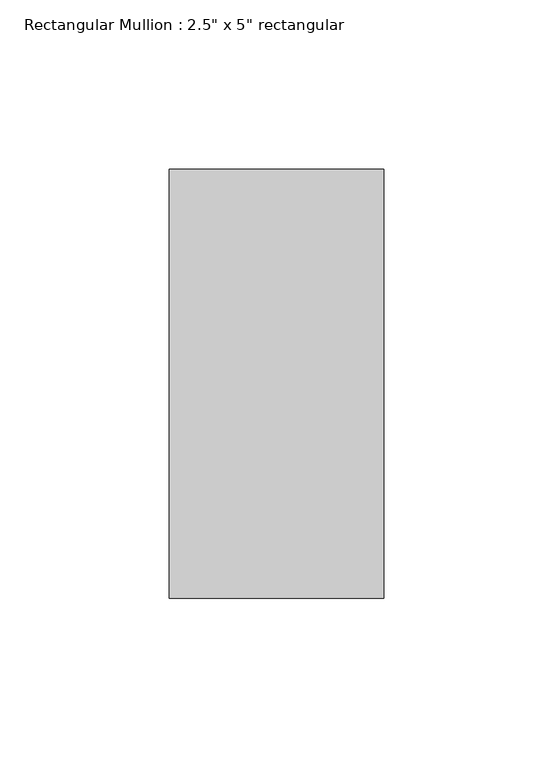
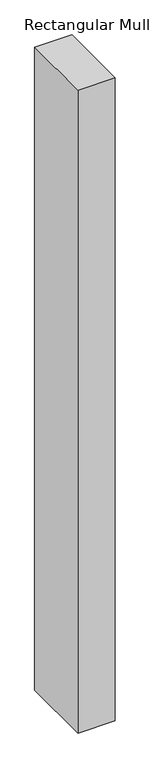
"""IFC4 building model written with IfcOpenShell, lengths in millimetres: member geometry."""

import ifcopenshell
import ifcopenshell.guid

model = None  # the IFC model being written
_history = None  # IfcOwnerHistory: only IFC2X3 demands one
_inside = {}  # id of a spatial element -> (the spatial element, [elements in it])
_under = {}  # id of a project, library or spatial element -> (it, [spatial elements below it])
_declared = {}  # id of a project -> (the project, [libraries it declares])
_typed = {}  # id of a type object -> (the type object, [elements of that type])
_made_of = {}  # id of a material, layer set ... -> (it, [elements and type objects made of it])


def new_model(schema):
    """Start an empty IFC model of exactly this schema.

    Asked for "IFC4X3", IfcOpenShell would pick the latest addendum, in which some entities
    have other attributes; the version numbers below select the first issue.
    IFC2X3 requires an IfcOwnerHistory on every rooted entity: one is made here for all.
    """
    global model, _history
    if schema == "IFC4X3":
        model = ifcopenshell.file(schema_version=(4, 3, 0, 0))
    else:
        model = ifcopenshell.file(schema=schema)
    _inside.clear()
    _under.clear()
    _declared.clear()
    _typed.clear()
    _made_of.clear()
    _history = None
    if model.schema == "IFC2X3":
        org = make("IfcOrganization", Name="unknown")
        user = make(
            "IfcPersonAndOrganization",
            ThePerson=make("IfcPerson", FamilyName="unknown"),
            TheOrganization=org,
        )
        app = make(
            "IfcApplication",
            ApplicationDeveloper=org,
            Version="unknown",
            ApplicationFullName="unknown",
            ApplicationIdentifier="unknown",
        )
        _history = make(
            "IfcOwnerHistory",
            OwningUser=user,
            OwningApplication=app,
            ChangeAction="ADDED",
            CreationDate=0,
        )
    return model


def make(cls, **values):
    """One entity of the class cls with the attributes given. An attribute that is None is left unset."""
    return model.create_entity(
        cls, **{name: value for name, value in values.items() if value is not None}
    )


def rooted(cls, **values):
    """An entity with a GlobalId (a new one), such as an element, a storey or a relation."""
    return make(cls, GlobalId=ifcopenshell.guid.new(), OwnerHistory=_history, **values)


def si_unit(unit_type, name, prefix=None):
    """IfcSIUnit, for example si_unit("LENGTHUNIT", "METRE", prefix="MILLI")."""
    return make("IfcSIUnit", UnitType=unit_type, Prefix=prefix, Name=name)


def assignment(units):
    """IfcUnitAssignment: the units of a project."""
    return None if units is None else make("IfcUnitAssignment", Units=units)


def point(xyz):
    """IfcCartesianPoint."""
    return None if xyz is None else make("IfcCartesianPoint", Coordinates=xyz)


def direction(xyz):
    """IfcDirection."""
    return None if xyz is None else make("IfcDirection", DirectionRatios=xyz)


def frame(location, z_axis=None, x_axis=None):
    """IfcAxis2Placement3D, a coordinate frame: its origin and axes. An axis left out is left unset."""
    return make(
        "IfcAxis2Placement3D",
        Location=point(location),
        Axis=direction(z_axis),
        RefDirection=direction(x_axis),
    )


def origin():
    """The frame at (0, 0, 0) with its axes left unset."""
    return frame((0.0, 0.0, 0.0))


def place(relative_to, where):
    """IfcLocalPlacement: puts the frame where relative to a parent placement (None: the world)."""
    return make(
        "IfcLocalPlacement", PlacementRelTo=relative_to, RelativePlacement=where
    )


def context(
    kind, dimensions, precision=None, world=None, true_north=None, identifier=None
):
    """IfcGeometricRepresentationContext, for example the 3D "Model" context."""
    return make(
        "IfcGeometricRepresentationContext",
        ContextIdentifier=identifier,
        ContextType=kind,
        CoordinateSpaceDimension=dimensions,
        Precision=precision,
        WorldCoordinateSystem=world,
        TrueNorth=true_north,
    )


def project(units=None, contexts=None):
    """IfcProject with its units and contexts."""
    return rooted(
        "IfcProject",
        Name="project",
        RepresentationContexts=contexts,
        UnitsInContext=assignment(units),
    )


def spatial(cls, under=None, at=None, **own):
    """A site, building, storey or space (cls), placed at a placement, below another one or the project."""
    s = rooted(cls, ObjectPlacement=at, **own)
    if under is not None:
        _under.setdefault(under.id(), (under, []))[1].append(s)
    return s


def polyline(points):
    """IfcPolyline through the points."""
    return make("IfcPolyline", Points=[point(p) for p in points])


def outline(outer, holes=None, kind="AREA"):
    """IfcArbitraryClosedProfileDef: a profile drawn as a closed curve; with holes, ...WithVoids."""
    if holes is None:
        return make("IfcArbitraryClosedProfileDef", ProfileType=kind, OuterCurve=outer)
    return make(
        "IfcArbitraryProfileDefWithVoids",
        ProfileType=kind,
        OuterCurve=outer,
        InnerCurves=holes,
    )


def extrude(swept, where, along, depth):
    """IfcExtrudedAreaSolid: the profile swept, set in the frame where, extruded along a direction by depth."""
    return make(
        "IfcExtrudedAreaSolid",
        SweptArea=swept,
        Position=where,
        ExtrudedDirection=direction(along),
        Depth=depth,
    )


def shape(context_of_items, identifier, shape_type, items):
    """IfcShapeRepresentation: the items that make up one representation, for example the "Body"."""
    return make(
        "IfcShapeRepresentation",
        ContextOfItems=context_of_items,
        RepresentationIdentifier=identifier,
        RepresentationType=shape_type,
        Items=items,
    )


def source(mapping_origin, context_of_items, identifier, shape_type, items):
    """IfcRepresentationMap: a shape defined once, which mapped items show again and again."""
    return make(
        "IfcRepresentationMap",
        MappingOrigin=mapping_origin,
        MappedRepresentation=shape(context_of_items, identifier, shape_type, items),
    )


def transform(
    local_origin,
    x_axis=None,
    y_axis=None,
    z_axis=None,
    scale=None,
    scale2=None,
    scale3=None,
    uniform=True,
):
    """IfcCartesianTransformationOperator3D, or its non-uniform kind. x_axis, y_axis, z_axis: its Axis1, 2, 3."""
    if uniform:
        return make(
            "IfcCartesianTransformationOperator3D",
            Axis1=direction(x_axis),
            Axis2=direction(y_axis),
            LocalOrigin=point(local_origin),
            Scale=scale,
            Axis3=direction(z_axis),
        )
    return make(
        "IfcCartesianTransformationOperator3DnonUniform",
        Axis1=direction(x_axis),
        Axis2=direction(y_axis),
        LocalOrigin=point(local_origin),
        Scale=scale,
        Axis3=direction(z_axis),
        Scale2=scale2,
        Scale3=scale3,
    )


def mapped(mapping_source, mapping_target):
    """IfcMappedItem: shows the shape of a source again, moved by a transform."""
    return make(
        "IfcMappedItem", MappingSource=mapping_source, MappingTarget=mapping_target
    )


def made_of(thing, what):
    """Note that an element or type object is made of a material, layer set ...; save() writes the relation."""
    if what is not None:
        _made_of.setdefault(what.id(), (what, []))[1].append(thing)
    return thing


def element(
    cls,
    number,
    at=None,
    inside=None,
    cuts=None,
    type_object=None,
    material=None,
    context=None,
    identifier="Body",
    shape_type=None,
    held_by="IfcProductDefinitionShape",
    body=None,
    shapes=None,
    **own,
):
    """One element of the class cls, such as IfcWall. Its Tag is "e" and its number.

    at: its placement. inside: the storey or other place that contains it. cuts: it is an
    opening in that element (IfcRelVoidsElement). A single representation is given by context,
    identifier, shape_type and body (its items); several are given by shapes. held_by: the class
    of the entity that holds the representations. save() writes the other relations.
    """
    e = rooted(cls, Tag="e%d" % number, ObjectPlacement=at, **own)
    if body is not None:
        shapes = [shape(context, identifier, shape_type, body)]
    if shapes is not None:
        e.Representation = make(held_by, Representations=shapes)
    if inside is not None:
        _inside.setdefault(inside.id(), (inside, []))[1].append(e)
    if cuts is not None:
        rooted(
            "IfcRelVoidsElement", RelatingBuildingElement=cuts, RelatedOpeningElement=e
        )
    if type_object is not None:
        _typed.setdefault(type_object.id(), (type_object, []))[1].append(e)
    return made_of(e, material)


def aggregate(whole, parts):
    """IfcRelAggregates: a whole, such as a stair, and the parts it consists of."""
    return rooted("IfcRelAggregates", RelatingObject=whole, RelatedObjects=parts)


def save(model, path):
    """Write the relations noted so far, then the file.

    IfcRelAggregates (storeys below a building ...), IfcRelContainedInSpatialStructure (elements
    in a storey), IfcRelDefinesByType, IfcRelAssociatesMaterial and IfcRelDeclares: one each for
    every whole, place, type object, material and project.
    """
    for whole, parts in _under.values():
        aggregate(whole, parts)
    for where, things in _inside.values():
        rooted(
            "IfcRelContainedInSpatialStructure",
            RelatedElements=things,
            RelatingStructure=where,
        )
    for kind, things in _typed.values():
        rooted("IfcRelDefinesByType", RelatedObjects=things, RelatingType=kind)
    for what, things in _made_of.values():
        rooted("IfcRelAssociatesMaterial", RelatedObjects=things, RelatingMaterial=what)
    for by, libraries in _declared.values():
        rooted("IfcRelDeclares", RelatingContext=by, RelatedDefinitions=libraries)
    model.write(path)


def member_d7472725(model_context):
    return source(origin(), model_context, "Body", "SweptSolid", [
        extrude(outline(polyline([(0.0, 63.5), (0.0, -63.5), (-63.5, -63.5), (-63.5, 63.5), (0.0, 63.5)])), frame((0.0, 0.0, -1155.7), z_axis=(0.0, 0.0, 1.0), x_axis=(1.0, 0.0, 0.0)), (0.0, 0.0, 1.0), 1155.7),
    ])


if __name__ == "__main__":
    model = new_model("IFC4")
    model_context = context("Model", 3, world=origin())
    ifc_project = project(units=[si_unit("LENGTHUNIT", "METRE", prefix="MILLI")], contexts=[model_context])
    site = spatial("IfcSite", under=ifc_project)
    building = spatial("IfcBuilding", under=site)
    placement = place(None, origin())
    member_shape = member_d7472725(model_context)
    element("IfcMember", 1, ObjectType="Rectangular Mullion : 2.5\" x 5\" rectangular", at=placement, inside=building, context=model_context, shape_type="MappedRepresentation", body=[
        mapped(member_shape, transform((0.0, 0.0, 0.0), x_axis=(1.0, 0.0, 0.0), y_axis=(0.0, 1.0, 0.0), z_axis=(0.0, 0.0, 1.0))),
    ])
    save(model, "model.ifc")
